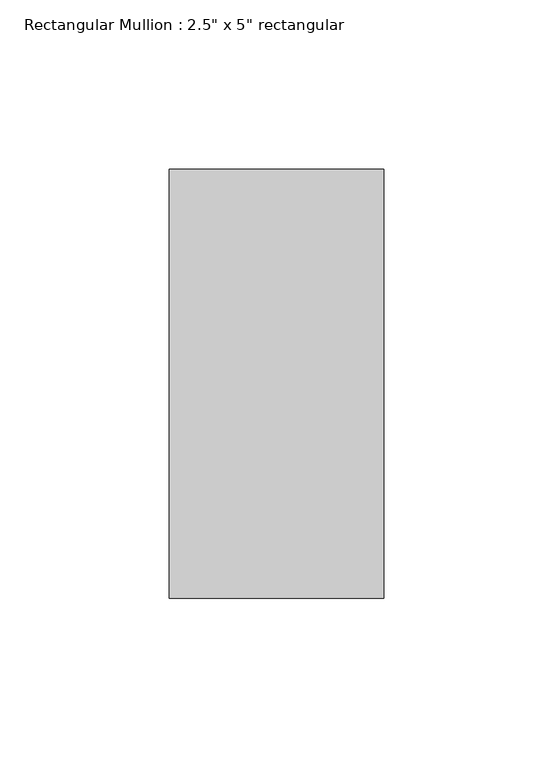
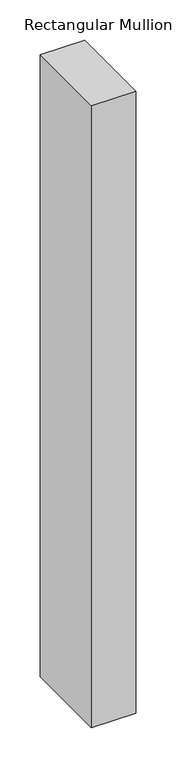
"""IFC4 building model written with IfcOpenShell, lengths in millimetres: member geometry."""

import ifcopenshell
import ifcopenshell.guid

model = None  # the IFC model being written
_history = None  # IfcOwnerHistory: only IFC2X3 demands one
_inside = {}  # id of a spatial element -> (the spatial element, [elements in it])
_under = {}  # id of a project, library or spatial element -> (it, [spatial elements below it])
_declared = {}  # id of a project -> (the project, [libraries it declares])
_typed = {}  # id of a type object -> (the type object, [elements of that type])
_made_of = {}  # id of a material, layer set ... -> (it, [elements and type objects made of it])


def new_model(schema):
    """Start an empty IFC model of exactly this schema.

    Asked for "IFC4X3", IfcOpenShell would pick the latest addendum, in which some entities
    have other attributes; the version numbers below select the first issue.
    IFC2X3 requires an IfcOwnerHistory on every rooted entity: one is made here for all.
    """
    global model, _history
    if schema == "IFC4X3":
        model = ifcopenshell.file(schema_version=(4, 3, 0, 0))
    else:
        model = ifcopenshell.file(schema=schema)
    _inside.clear()
    _under.clear()
    _declared.clear()
    _typed.clear()
    _made_of.clear()
    _history = None
    if model.schema == "IFC2X3":
        org = make("IfcOrganization", Name="unknown")
        user = make(
            "IfcPersonAndOrganization",
            ThePerson=make("IfcPerson", FamilyName="unknown"),
            TheOrganization=org,
        )
        app = make(
            "IfcApplication",
            ApplicationDeveloper=org,
            Version="unknown",
            ApplicationFullName="unknown",
            ApplicationIdentifier="unknown",
        )
        _history = make(
            "IfcOwnerHistory",
            OwningUser=user,
            OwningApplication=app,
            ChangeAction="ADDED",
            CreationDate=0,
        )
    return model


def make(cls, **values):
    """One entity of the class cls with the attributes given. An attribute that is None is left unset."""
    return model.create_entity(
        cls, **{name: value for name, value in values.items() if value is not None}
    )


def rooted(cls, **values):
    """An entity with a GlobalId (a new one), such as an element, a storey or a relation."""
    return make(cls, GlobalId=ifcopenshell.guid.new(), OwnerHistory=_history, **values)


def si_unit(unit_type, name, prefix=None):
    """IfcSIUnit, for example si_unit("LENGTHUNIT", "METRE", prefix="MILLI")."""
    return make("IfcSIUnit", UnitType=unit_type, Prefix=prefix, Name=name)


def assignment(units):
    """IfcUnitAssignment: the units of a project."""
    return None if units is None else make("IfcUnitAssignment", Units=units)


def point(xyz):
    """IfcCartesianPoint."""
    return None if xyz is None else make("IfcCartesianPoint", Coordinates=xyz)


def direction(xyz):
    """IfcDirection."""
    return None if xyz is None else make("IfcDirection", DirectionRatios=xyz)


def frame(location, z_axis=None, x_axis=None):
    """IfcAxis2Placement3D, a coordinate frame: its origin and axes. An axis left out is left unset."""
    return make(
        "IfcAxis2Placement3D",
        Location=point(location),
        Axis=direction(z_axis),
        RefDirection=direction(x_axis),
    )


def origin():
    """The frame at (0, 0, 0) with its axes left unset."""
    return frame((0.0, 0.0, 0.0))


def place(relative_to, where):
    """IfcLocalPlacement: puts the frame where relative to a parent placement (None: the world)."""
    return make(
        "IfcLocalPlacement", PlacementRelTo=relative_to, RelativePlacement=where
    )


def context(
    kind, dimensions, precision=None, world=None, true_north=None, identifier=None
):
    """IfcGeometricRepresentationContext, for example the 3D "Model" context."""
    return make(
        "IfcGeometricRepresentationContext",
        ContextIdentifier=identifier,
        ContextType=kind,
        CoordinateSpaceDimension=dimensions,
        Precision=precision,
        WorldCoordinateSystem=world,
        TrueNorth=true_north,
    )


def project(units=None, contexts=None):
    """IfcProject with its units and contexts."""
    return rooted(
        "IfcProject",
        Name="project",
        RepresentationContexts=contexts,
        UnitsInContext=assignment(units),
    )


def spatial(cls, under=None, at=None, **own):
    """A site, building, storey or space (cls), placed at a placement, below another one or the project."""
    s = rooted(cls, ObjectPlacement=at, **own)
    if under is not None:
        _under.setdefault(under.id(), (under, []))[1].append(s)
    return s


def polyline(points):
    """IfcPolyline through the points."""
    return make("IfcPolyline", Points=[point(p) for p in points])


def outline(outer, holes=None, kind="AREA"):
    """IfcArbitraryClosedProfileDef: a profile drawn as a closed curve; with holes, ...WithVoids."""
    if holes is None:
        return make("IfcArbitraryClosedProfileDef", ProfileType=kind, OuterCurve=outer)
    return make(
        "IfcArbitraryProfileDefWithVoids",
        ProfileType=kind,
        OuterCurve=outer,
        InnerCurves=holes,
    )


def extrude(swept, where, along, depth):
    """IfcExtrudedAreaSolid: the profile swept, set in the frame where, extruded along a direction by depth."""
    return make(
        "IfcExtrudedAreaSolid",
        SweptArea=swept,
        Position=where,
        ExtrudedDirection=direction(along),
        Depth=depth,
    )


def shape(context_of_items, identifier, shape_type, items):
    """IfcShapeRepresentation: the items that make up one representation, for example the "Body"."""
    return make(
        "IfcShapeRepresentation",
        ContextOfItems=context_of_items,
        RepresentationIdentifier=identifier,
        RepresentationType=shape_type,
        Items=items,
    )


def source(mapping_origin, context_of_items, identifier, shape_type, items):
    """IfcRepresentationMap: a shape defined once, which mapped items show again and again."""
    return make(
        "IfcRepresentationMap",
        MappingOrigin=mapping_origin,
        MappedRepresentation=shape(context_of_items, identifier, shape_type, items),
    )


def transform(
    local_origin,
    x_axis=None,
    y_axis=None,
    z_axis=None,
    scale=None,
    scale2=None,
    scale3=None,
    uniform=True,
):
    """IfcCartesianTransformationOperator3D, or its non-uniform kind. x_axis, y_axis, z_axis: its Axis1, 2, 3."""
    if uniform:
        return make(
            "IfcCartesianTransformationOperator3D",
            Axis1=direction(x_axis),
            Axis2=direction(y_axis),
            LocalOrigin=point(local_origin),
            Scale=scale,
            Axis3=direction(z_axis),
        )
    return make(
        "IfcCartesianTransformationOperator3DnonUniform",
        Axis1=direction(x_axis),
        Axis2=direction(y_axis),
        LocalOrigin=point(local_origin),
        Scale=scale,
        Axis3=direction(z_axis),
        Scale2=scale2,
        Scale3=scale3,
    )


def mapped(mapping_source, mapping_target):
    """IfcMappedItem: shows the shape of a source again, moved by a transform."""
    return make(
        "IfcMappedItem", MappingSource=mapping_source, MappingTarget=mapping_target
    )


def made_of(thing, what):
    """Note that an element or type object is made of a material, layer set ...; save() writes the relation."""
    if what is not None:
        _made_of.setdefault(what.id(), (what, []))[1].append(thing)
    return thing


def element(
    cls,
    number,
    at=None,
    inside=None,
    cuts=None,
    type_object=None,
    material=None,
    context=None,
    identifier="Body",
    shape_type=None,
    held_by="IfcProductDefinitionShape",
    body=None,
    shapes=None,
    **own,
):
    """One element of the class cls, such as IfcWall. Its Tag is "e" and its number.

    at: its placement. inside: the storey or other place that contains it. cuts: it is an
    opening in that element (IfcRelVoidsElement). A single representation is given by context,
    identifier, shape_type and body (its items); several are given by shapes. held_by: the class
    of the entity that holds the representations. save() writes the other relations.
    """
    e = rooted(cls, Tag="e%d" % number, ObjectPlacement=at, **own)
    if body is not None:
        shapes = [shape(context, identifier, shape_type, body)]
    if shapes is not None:
        e.Representation = make(held_by, Representations=shapes)
    if inside is not None:
        _inside.setdefault(inside.id(), (inside, []))[1].append(e)
    if cuts is not None:
        rooted(
            "IfcRelVoidsElement", RelatingBuildingElement=cuts, RelatedOpeningElement=e
        )
    if type_object is not None:
        _typed.setdefault(type_object.id(), (type_object, []))[1].append(e)
    return made_of(e, material)


def aggregate(whole, parts):
    """IfcRelAggregates: a whole, such as a stair, and the parts it consists of."""
    return rooted("IfcRelAggregates", RelatingObject=whole, RelatedObjects=parts)


def save(model, path):
    """Write the relations noted so far, then the file.

    IfcRelAggregates (storeys below a building ...), IfcRelContainedInSpatialStructure (elements
    in a storey), IfcRelDefinesByType, IfcRelAssociatesMaterial and IfcRelDeclares: one each for
    every whole, place, type object, material and project.
    """
    for whole, parts in _under.values():
        aggregate(whole, parts)
    for where, things in _inside.values():
        rooted(
            "IfcRelContainedInSpatialStructure",
            RelatedElements=things,
            RelatingStructure=where,
        )
    for kind, things in _typed.values():
        rooted("IfcRelDefinesByType", RelatedObjects=things, RelatingType=kind)
    for what, things in _made_of.values():
        rooted("IfcRelAssociatesMaterial", RelatedObjects=things, RelatingMaterial=what)
    for by, libraries in _declared.values():
        rooted("IfcRelDeclares", RelatingContext=by, RelatedDefinitions=libraries)
    model.write(path)


def member_a24b65ef(model_context):
    return source(origin(), model_context, "Body", "SweptSolid", [
        extrude(outline(polyline([(0.0, 63.5), (0.0, -63.5), (-63.5, -63.5), (-63.5, 63.5), (0.0, 63.5)])), frame((0.0, 0.0, -943.4285714), z_axis=(0.0, 0.0, 1.0), x_axis=(1.0, 0.0, 0.0)), (0.0, 0.0, 1.0), 943.4285714),
    ])


if __name__ == "__main__":
    model = new_model("IFC4")
    model_context = context("Model", 3, world=origin())
    ifc_project = project(units=[si_unit("LENGTHUNIT", "METRE", prefix="MILLI")], contexts=[model_context])
    site = spatial("IfcSite", under=ifc_project)
    building = spatial("IfcBuilding", under=site)
    placement = place(None, origin())
    member_shape = member_a24b65ef(model_context)
    element("IfcMember", 1, ObjectType="Rectangular Mullion : 2.5\" x 5\" rectangular", at=placement, inside=building, context=model_context, shape_type="MappedRepresentation", body=[
        mapped(member_shape, transform((0.0, 0.0, 0.0), x_axis=(1.0, 0.0, 0.0), y_axis=(0.0, 1.0, 0.0), z_axis=(0.0, 0.0, 1.0))),
    ])
    save(model, "model.ifc")
